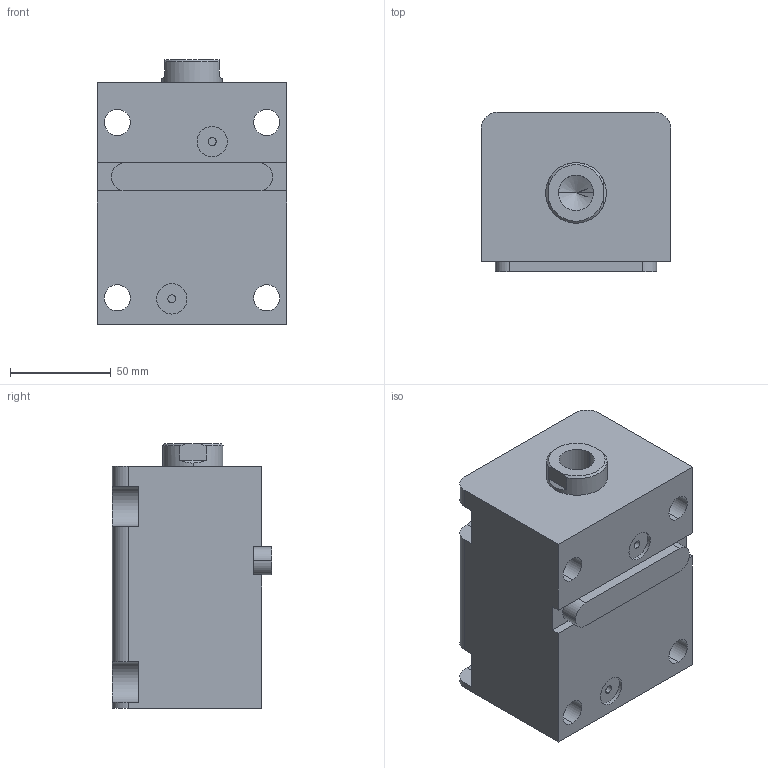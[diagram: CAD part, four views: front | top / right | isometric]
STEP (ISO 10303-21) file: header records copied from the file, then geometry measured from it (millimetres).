
FILE_DESCRIPTION (( 'STEP AP203' ), '1' );
FILE_NAME ('HTB-LAM50-60N.STEP', '2023-03-20T01:06:11', ( '微软用户' ), ( '微软中国' ), 'SwSTEP 2.0', 'SolidWorks 2012', '' );
FILE_SCHEMA (( 'CONFIG_CONTROL_DESIGN' ));
Length unit declared in the file: millimetre
Products named in the file (4): HTB-LAM50-60N; HTB-LWM50-瑩; HTB-LAM50-60N活塞杆; HTB-LAM50-60掛极
Assembly tree (3 placements, depth 2):
  HTB-LAM50-60N
    HTB-LAM50-60掛极
    HTB-LAM50-60N活塞杆
    HTB-LWM50-瑩
Bounding box: 94 x 79 x 131 mm (x, y, z)
Volume: 710595.3 mm3; surface area: 104659.2 mm2
Topology: 3 solids, 3 shells, 86 faces, 213 edges, 139 vertices
Faces by surface type: cylinder 39, plane 39, torus 4, cone 4
Entity records: 3001 total; most frequent: DIRECTION 475, CARTESIAN_POINT 470, ORIENTED_EDGE 422, EDGE_CURVE 211, AXIS2_PLACEMENT_3D 180, VERTEX_POINT 139, LINE 115, VECTOR 115
